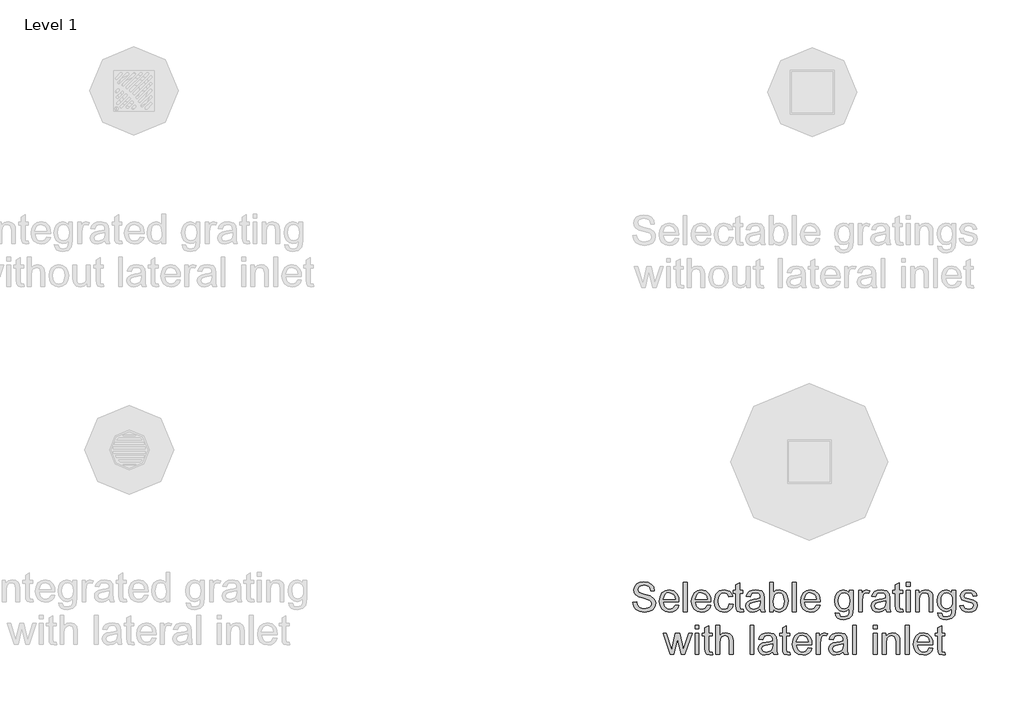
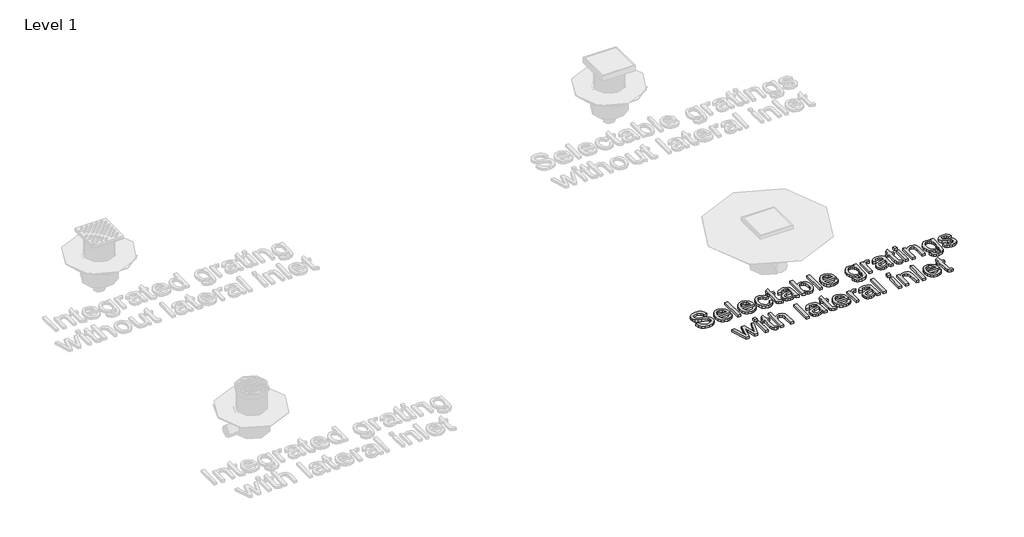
# One storey, part 3 of 4: 1 proxy.
"""IFC4 building model written with IfcOpenShell, lengths in millimetres."""

import ifcopenshell
import ifcopenshell.guid

model = None  # the IFC model being written
_history = None  # IfcOwnerHistory: only IFC2X3 demands one
_inside = {}  # id of a spatial element -> (the spatial element, [elements in it])
_under = {}  # id of a project, library or spatial element -> (it, [spatial elements below it])
_declared = {}  # id of a project -> (the project, [libraries it declares])
_typed = {}  # id of a type object -> (the type object, [elements of that type])
_made_of = {}  # id of a material, layer set ... -> (it, [elements and type objects made of it])


def new_model(schema):
    """Start an empty IFC model of exactly this schema.

    Asked for "IFC4X3", IfcOpenShell would pick the latest addendum, in which some entities
    have other attributes; the version numbers below select the first issue.
    IFC2X3 requires an IfcOwnerHistory on every rooted entity: one is made here for all.
    """
    global model, _history
    if schema == "IFC4X3":
        model = ifcopenshell.file(schema_version=(4, 3, 0, 0))
    else:
        model = ifcopenshell.file(schema=schema)
    _inside.clear()
    _under.clear()
    _declared.clear()
    _typed.clear()
    _made_of.clear()
    _history = None
    if model.schema == "IFC2X3":
        org = make("IfcOrganization", Name="unknown")
        user = make(
            "IfcPersonAndOrganization",
            ThePerson=make("IfcPerson", FamilyName="unknown"),
            TheOrganization=org,
        )
        app = make(
            "IfcApplication",
            ApplicationDeveloper=org,
            Version="unknown",
            ApplicationFullName="unknown",
            ApplicationIdentifier="unknown",
        )
        _history = make(
            "IfcOwnerHistory",
            OwningUser=user,
            OwningApplication=app,
            ChangeAction="ADDED",
            CreationDate=0,
        )
    return model


def make(cls, **values):
    """One entity of the class cls with the attributes given. An attribute that is None is left unset."""
    return model.create_entity(
        cls, **{name: value for name, value in values.items() if value is not None}
    )


def rooted(cls, **values):
    """An entity with a GlobalId (a new one), such as an element, a storey or a relation."""
    return make(cls, GlobalId=ifcopenshell.guid.new(), OwnerHistory=_history, **values)


def si_unit(unit_type, name, prefix=None):
    """IfcSIUnit, for example si_unit("LENGTHUNIT", "METRE", prefix="MILLI")."""
    return make("IfcSIUnit", UnitType=unit_type, Prefix=prefix, Name=name)


def assignment(units):
    """IfcUnitAssignment: the units of a project."""
    return None if units is None else make("IfcUnitAssignment", Units=units)


def point(xyz):
    """IfcCartesianPoint."""
    return None if xyz is None else make("IfcCartesianPoint", Coordinates=xyz)


def direction(xyz):
    """IfcDirection."""
    return None if xyz is None else make("IfcDirection", DirectionRatios=xyz)


def frame(location, z_axis=None, x_axis=None):
    """IfcAxis2Placement3D, a coordinate frame: its origin and axes. An axis left out is left unset."""
    return make(
        "IfcAxis2Placement3D",
        Location=point(location),
        Axis=direction(z_axis),
        RefDirection=direction(x_axis),
    )


def origin():
    """The frame at (0, 0, 0) with its axes left unset."""
    return frame((0.0, 0.0, 0.0))


def origin_with_axes():
    """The frame at (0, 0, 0) with the z axis (0, 0, 1) and the x axis (1, 0, 0) written out."""
    return frame((0.0, 0.0, 0.0), z_axis=(0.0, 0.0, 1.0), x_axis=(1.0, 0.0, 0.0))


def place(relative_to, where):
    """IfcLocalPlacement: puts the frame where relative to a parent placement (None: the world)."""
    return make(
        "IfcLocalPlacement", PlacementRelTo=relative_to, RelativePlacement=where
    )


def context(
    kind, dimensions, precision=None, world=None, true_north=None, identifier=None
):
    """IfcGeometricRepresentationContext, for example the 3D "Model" context."""
    return make(
        "IfcGeometricRepresentationContext",
        ContextIdentifier=identifier,
        ContextType=kind,
        CoordinateSpaceDimension=dimensions,
        Precision=precision,
        WorldCoordinateSystem=world,
        TrueNorth=true_north,
    )


def project(units=None, contexts=None):
    """IfcProject with its units and contexts."""
    return rooted(
        "IfcProject",
        Name="project",
        RepresentationContexts=contexts,
        UnitsInContext=assignment(units),
    )


def spatial(cls, under=None, at=None, **own):
    """A site, building, storey or space (cls), placed at a placement, below another one or the project."""
    s = rooted(cls, ObjectPlacement=at, **own)
    if under is not None:
        _under.setdefault(under.id(), (under, []))[1].append(s)
    return s


def polyline(points):
    """IfcPolyline through the points."""
    return make("IfcPolyline", Points=[point(p) for p in points])


def outline(outer, holes=None, kind="AREA"):
    """IfcArbitraryClosedProfileDef: a profile drawn as a closed curve; with holes, ...WithVoids."""
    if holes is None:
        return make("IfcArbitraryClosedProfileDef", ProfileType=kind, OuterCurve=outer)
    return make(
        "IfcArbitraryProfileDefWithVoids",
        ProfileType=kind,
        OuterCurve=outer,
        InnerCurves=holes,
    )


def extrude(swept, where, along, depth):
    """IfcExtrudedAreaSolid: the profile swept, set in the frame where, extruded along a direction by depth."""
    return make(
        "IfcExtrudedAreaSolid",
        SweptArea=swept,
        Position=where,
        ExtrudedDirection=direction(along),
        Depth=depth,
    )


def shape(context_of_items, identifier, shape_type, items):
    """IfcShapeRepresentation: the items that make up one representation, for example the "Body"."""
    return make(
        "IfcShapeRepresentation",
        ContextOfItems=context_of_items,
        RepresentationIdentifier=identifier,
        RepresentationType=shape_type,
        Items=items,
    )


def made_of(thing, what):
    """Note that an element or type object is made of a material, layer set ...; save() writes the relation."""
    if what is not None:
        _made_of.setdefault(what.id(), (what, []))[1].append(thing)
    return thing


def element(
    cls,
    number,
    at=None,
    inside=None,
    cuts=None,
    type_object=None,
    material=None,
    context=None,
    identifier="Body",
    shape_type=None,
    held_by="IfcProductDefinitionShape",
    body=None,
    shapes=None,
    **own,
):
    """One element of the class cls, such as IfcWall. Its Tag is "e" and its number.

    at: its placement. inside: the storey or other place that contains it. cuts: it is an
    opening in that element (IfcRelVoidsElement). A single representation is given by context,
    identifier, shape_type and body (its items); several are given by shapes. held_by: the class
    of the entity that holds the representations. save() writes the other relations.
    """
    e = rooted(cls, Tag="e%d" % number, ObjectPlacement=at, **own)
    if body is not None:
        shapes = [shape(context, identifier, shape_type, body)]
    if shapes is not None:
        e.Representation = make(held_by, Representations=shapes)
    if inside is not None:
        _inside.setdefault(inside.id(), (inside, []))[1].append(e)
    if cuts is not None:
        rooted(
            "IfcRelVoidsElement", RelatingBuildingElement=cuts, RelatedOpeningElement=e
        )
    if type_object is not None:
        _typed.setdefault(type_object.id(), (type_object, []))[1].append(e)
    return made_of(e, material)


def aggregate(whole, parts):
    """IfcRelAggregates: a whole, such as a stair, and the parts it consists of."""
    return rooted("IfcRelAggregates", RelatingObject=whole, RelatedObjects=parts)


def save(model, path):
    """Write the relations noted so far, then the file.

    IfcRelAggregates (storeys below a building ...), IfcRelContainedInSpatialStructure (elements
    in a storey), IfcRelDefinesByType, IfcRelAssociatesMaterial and IfcRelDeclares: one each for
    every whole, place, type object, material and project.
    """
    for whole, parts in _under.values():
        aggregate(whole, parts)
    for where, things in _inside.values():
        rooted(
            "IfcRelContainedInSpatialStructure",
            RelatedElements=things,
            RelatingStructure=where,
        )
    for kind, things in _typed.values():
        rooted("IfcRelDefinesByType", RelatedObjects=things, RelatingType=kind)
    for what, things in _made_of.values():
        rooted("IfcRelAssociatesMaterial", RelatedObjects=things, RelatingMaterial=what)
    for by, libraries in _declared.values():
        rooted("IfcRelDeclares", RelatingContext=by, RelatedDefinitions=libraries)
    model.write(path)


model = new_model("IFC4")

# Units and contexts
model_context = context("Model", 3, world=origin())
ifc_project = project(units=[si_unit("LENGTHUNIT", "METRE", prefix="MILLI")], contexts=[model_context])

# Site, building, storey
site = spatial("IfcSite", under=ifc_project)
building = spatial("IfcBuilding", under=site)
storey = spatial("IfcBuildingStorey", under=building, Name="Level 1", Elevation=0.0)

# Proxy
placement = place(None, origin())
element("IfcBuildingElementProxy", 1, Name="100mm ACO", ObjectType="100mm ACO", at=placement, inside=storey, context=model_context, shape_type="SweptSolid", body=[
    extrude(outline(polyline([(3996.6750123, -2075.7689596), (3994.6640169, -2066.875007), (3990.1935308, -2060.5056494), (3973.8740864, -2055.3985892), (3958.2490864, -2059.3771771), (3953.7351975, -2064.2636065), (3952.2305679, -2070.9657188), (3956.701054, -2081.0206957), (3974.8868179, -2087.3140984), (3994.7218873, -2092.797316), (4007.872929, -2101.7238207), (4011.9744915, -2108.8057072), (4013.341679, -2117.9564596), (4010.8351686, -2129.7945672), (4003.3156373, -2139.4408346), (3991.7668815, -2145.853595), (3977.1726975, -2147.9911818), (3959.1894799, -2145.6184966), (3946.3856605, -2138.500441), (3938.5731605, -2127.6063438), (3935.5639012, -2113.9055336), (3948.5268642, -2112.8059966), (3951.1563491, -2123.6820093), (3957.3665632, -2131.1364364), (3966.2026454, -2135.4441621), (3976.7097345, -2136.8800707), (3993.8393642, -2132.1491679), (3998.7438781, -2126.5755278), (4000.378716, -2119.3164133), (3998.6896246, -2111.9885776), (3993.6223503, -2106.9610892), (3970.3439938, -2099.510279), (3956.133201, -2095.1700012), (3946.544804, -2089.2961586), (3941.0869047, -2081.6681204), (3939.2676049, -2072.0652559), (3941.5498676, -2061.0698855), (3948.3966558, -2052.1578484), (3959.1786292, -2046.2550707), (3973.2664475, -2044.2874781), (3987.8280794, -2046.2695383), (3999.2213086, -2052.2157188), (4006.7299892, -2061.8077327), (4009.6379753, -2074.7272929), (3996.6750123, -2075.7689596)])), origin_with_axes(), (0.0, 0.0, 1.0), 10.0),
    extrude(outline(polyline([(4092.9713086, -2112.8059966), (4039.2676049, -2112.8059966), (4041.3400875, -2123.9315753), (4046.0529058, -2132.0768299), (4052.8345899, -2137.0681494), (4061.1136697, -2138.7319225), (4072.7890169, -2135.0426864), (4080.0083456, -2123.9171077), (4092.9713086, -2125.4217373), (4088.5948619, -2135.0426864), (4081.6576512, -2142.1462744), (4072.4128595, -2146.5299549), (4061.1136697, -2147.9911818), (4046.5267195, -2145.4846714), (4035.5204984, -2137.9651401), (4028.6086061, -2126.1053311), (4026.3046419, -2110.5779873), (4028.5254174, -2095.0397929), (4035.1877438, -2082.7423392), (4045.8865285, -2074.7345267), (4060.216679, -2072.0652559), (4075.4365864, -2075.5230105), (4087.8642484, -2087.2996309), (4091.6945436, -2097.8356552), (4092.9713086, -2112.8059966)]), holes=[polyline([(4080.0083456, -2103.5467373), (4077.9250123, -2093.3904873), (4073.1796419, -2086.5328484), (4059.8983919, -2081.3245151), (4052.0424892, -2082.8725475), (4045.7201512, -2087.5166447), (4039.2676049, -2103.5467373), (4080.0083456, -2103.5467373)])]), origin_with_axes(), (0.0, 0.0, 1.0), 10.0),
    extrude(outline(polyline([(4120.7490864, -2146.1393299), (4107.7861234, -2146.1393299), (4107.7861234, -2046.1393299), (4120.7490864, -2046.1393299), (4120.7490864, -2146.1393299)])), origin_with_axes(), (0.0, 0.0, 1.0), 10.0),
    extrude(outline(polyline([(4202.2305679, -2112.8059966), (4148.5268642, -2112.8059966), (4150.5993468, -2123.9315753), (4155.3121651, -2132.0768299), (4162.0938491, -2137.0681494), (4170.372929, -2138.7319225), (4182.0482762, -2135.0426864), (4189.2676049, -2123.9171077), (4202.2305679, -2125.4217373), (4197.8541211, -2135.0426864), (4190.9169105, -2142.1462744), (4181.6721188, -2146.5299549), (4170.372929, -2147.9911818), (4155.7859788, -2145.4846714), (4144.7797577, -2137.9651401), (4137.8678653, -2126.1053311), (4135.5639012, -2110.5779873), (4137.7846767, -2095.0397929), (4144.4470031, -2082.7423392), (4155.1457878, -2074.7345267), (4169.4759382, -2072.0652559), (4184.6958456, -2075.5230105), (4197.1235077, -2087.2996309), (4200.9538028, -2097.8356552), (4202.2305679, -2112.8059966)]), holes=[polyline([(4189.2676049, -2103.5467373), (4187.1842716, -2093.3904873), (4182.4389012, -2086.5328484), (4169.1576512, -2081.3245151), (4161.3017484, -2082.8725475), (4154.9794105, -2087.5166447), (4148.5268642, -2103.5467373), (4189.2676049, -2103.5467373)])]), origin_with_axes(), (0.0, 0.0, 1.0), 10.0),
    extrude(outline(polyline([(4278.1564938, -2121.6890984), (4274.1272693, -2133.494654), (4266.9585771, -2141.6543762), (4257.6342137, -2146.4069804), (4247.1379753, -2147.9911818), (4232.8222924, -2145.4014827), (4222.1669105, -2137.6323855), (4215.5479869, -2125.5881146), (4213.341679, -2110.1728947), (4218.3764012, -2087.4877096), (4230.9776744, -2075.5230105), (4246.8775586, -2072.0652559), (4266.3364706, -2077.7220846), (4272.8722056, -2084.7063149), (4276.3046419, -2094.3453484), (4263.341679, -2096.1393299), (4257.4389012, -2085.0426864), (4247.0222345, -2081.3245151), (4238.0667947, -2083.208919), (4231.5708456, -2088.8621309), (4227.6211929, -2097.8935255), (4226.3046419, -2109.9124781), (4227.6248098, -2122.1412107), (4231.5853132, -2131.223242), (4238.0342426, -2136.8547524), (4246.8196882, -2138.7319225), (4259.4209614, -2134.1022929), (4265.1935308, -2120.213404), (4278.1564938, -2121.6890984)])), origin_with_axes(), (0.0, 0.0, 1.0), 10.0),
    extrude(outline(polyline([(4313.341679, -2147.1520614), (4304.2560308, -2147.9911818), (4292.6674892, -2145.1121309), (4288.2259382, -2137.8059966), (4287.4157531, -2125.4796077), (4287.4157531, -2083.176367), (4278.1564938, -2083.176367), (4278.1564938, -2073.9171077), (4287.4157531, -2073.9171077), (4287.4157531, -2055.5722003), (4300.378716, -2047.9911818), (4300.378716, -2073.9171077), (4311.4898271, -2073.9171077), (4311.4898271, -2083.176367), (4300.378716, -2083.176367), (4300.378716, -2128.0837744), (4301.4203827, -2136.301367), (4306.7155216, -2138.7319225), (4311.7502438, -2138.7319225), (4313.341679, -2147.1520614)])), origin_with_axes(), (0.0, 0.0, 1.0), 10.0),
    extrude(outline(polyline([(4387.4157531, -2146.1393299), (4374.4527901, -2146.1393299), (4370.7490864, -2137.400904), (4358.2563202, -2145.3436123), (4344.7942253, -2147.9911818), (4334.8079695, -2146.5444225), (4327.1871651, -2142.2041447), (4322.3586061, -2135.4911818), (4320.7490864, -2126.926367), (4322.326054, -2118.6183519), (4327.0569568, -2111.9234734), (4335.6868757, -2107.0298103), (4348.9608919, -2104.125441), (4360.3034845, -2102.3893299), (4370.7490864, -2099.8430336), (4370.4163318, -2091.8135197), (4368.4776744, -2086.937941), (4363.3127438, -2082.8725475), (4353.7351975, -2081.3245151), (4341.6547577, -2084.4639827), (4335.5639012, -2096.1393299), (4322.6009382, -2094.5478947), (4326.1563491, -2084.738867), (4332.8295262, -2077.707617), (4342.6132357, -2073.4758461), (4355.5002438, -2072.0652559), (4374.7566095, -2075.9281031), (4382.3086929, -2085.2452327), (4383.7120494, -2099.2932651), (4383.7120494, -2115.8152559), (4384.2618179, -2136.0698855), (4387.4157531, -2146.1393299)]), holes=[polyline([(4370.7490864, -2113.7319225), (4370.7490864, -2109.1022929), (4347.4707299, -2114.426367), (4337.1517195, -2118.4845267), (4333.7120494, -2126.7238207), (4337.4157531, -2135.3465059), (4348.0928364, -2138.7319225), (4363.9059151, -2133.0606262), (4369.0382936, -2125.3928021), (4370.7490864, -2113.7319225)])]), origin_with_axes(), (0.0, 0.0, 1.0), 10.0),
    extrude(outline(polyline([(4415.3671419, -2081.0640984), (4423.7294105, -2074.3149665), (4434.8115864, -2072.0652559), (4447.2356315, -2074.6115521), (4456.9036003, -2082.250441), (4463.1210482, -2093.9981262), (4465.1935308, -2108.8708114), (4462.914885, -2125.6061991), (4456.0789475, -2137.9072697), (4446.190348, -2145.4702038), (4434.753716, -2147.9911818), (4423.7366443, -2145.5172234), (4415.4539475, -2138.0953484), (4415.1935308, -2146.1393299), (4402.2305679, -2146.1393299), (4402.2305679, -2046.1393299), (4415.1935308, -2046.1393299), (4415.3671419, -2081.0640984)]), holes=[polyline([(4433.5384382, -2138.7319225), (4440.9566963, -2136.8402848), (4446.9498966, -2131.1653716), (4450.9104, -2122.0688728), (4452.2305679, -2109.9124781), (4447.3694568, -2089.035742), (4441.5824197, -2083.2523218), (4433.9435308, -2081.3245151), (4426.3191095, -2083.3138091), (4420.3439938, -2089.281691), (4415.1935308, -2109.4205799), (4417.3347345, -2126.3765984), (4423.7872808, -2135.0716216), (4433.5384382, -2138.7319225)])]), origin_with_axes(), (0.0, 0.0, 1.0), 10.0),
    extrude(outline(polyline([(4492.9713086, -2146.1393299), (4480.0083456, -2146.1393299), (4480.0083456, -2046.1393299), (4492.9713086, -2046.1393299), (4492.9713086, -2146.1393299)])), origin_with_axes(), (0.0, 0.0, 1.0), 10.0),
    extrude(outline(polyline([(4574.4527901, -2112.8059966), (4520.7490864, -2112.8059966), (4522.821569, -2123.9315753), (4527.5343873, -2132.0768299), (4534.3160713, -2137.0681494), (4542.5951512, -2138.7319225), (4554.2704984, -2135.0426864), (4561.4898271, -2123.9171077), (4574.4527901, -2125.4217373), (4570.0763433, -2135.0426864), (4563.1391327, -2142.1462744), (4553.894341, -2146.5299549), (4542.5951512, -2147.9911818), (4528.008201, -2145.4846714), (4517.0019799, -2137.9651401), (4510.0900875, -2126.1053311), (4507.7861234, -2110.5779873), (4510.0068989, -2095.0397929), (4516.6692253, -2082.7423392), (4527.36801, -2074.7345267), (4541.6981605, -2072.0652559), (4556.9180679, -2075.5230105), (4569.3457299, -2087.2996309), (4573.176025, -2097.8356552), (4574.4527901, -2112.8059966)]), holes=[polyline([(4561.4898271, -2103.5467373), (4559.4064938, -2093.3904873), (4554.6611234, -2086.5328484), (4541.3798734, -2081.3245151), (4533.5239706, -2082.8725475), (4527.2016327, -2087.5166447), (4520.7490864, -2103.5467373), (4561.4898271, -2103.5467373)])]), origin_with_axes(), (0.0, 0.0, 1.0), 10.0),
    extrude(outline(polyline([(4687.4157531, -2135.4911818), (4684.363091, -2158.1329642), (4673.497929, -2169.7649086), (4654.8347345, -2173.9171077), (4643.6187334, -2172.5101343), (4634.4498966, -2168.2892142), (4628.3409556, -2160.8637223), (4626.3046419, -2149.8430336), (4639.2676049, -2151.8974318), (4643.8393642, -2161.4605105), (4655.0372808, -2164.6578484), (4668.347466, -2160.9686123), (4673.5123966, -2151.9842373), (4674.4527901, -2137.3719688), (4665.6781952, -2143.9474896), (4654.8636697, -2146.1393299), (4642.4721767, -2143.5279295), (4632.7861234, -2135.6937281), (4626.5361234, -2123.8809387), (4624.4527901, -2109.3337744), (4626.4348503, -2094.6925707), (4632.3810308, -2082.713404), (4641.8283688, -2074.7272929), (4654.3139012, -2072.0652559), (4665.3888433, -2074.4451748), (4674.1923734, -2081.5849318), (4674.4527901, -2073.9171077), (4687.4157531, -2073.9171077), (4687.4157531, -2135.4911818)]), holes=[polyline([(4656.8023271, -2136.8800707), (4664.014422, -2135.2741679), (4670.372929, -2130.4564596), (4674.8217137, -2121.8627096), (4676.3046419, -2108.9286818), (4674.8904348, -2097.1412107), (4670.6478132, -2088.4570383), (4664.3218584, -2083.1076459), (4656.6576512, -2081.3245151), (4648.9355737, -2083.1510487), (4642.7832299, -2088.6306494), (4638.7576223, -2097.2858866), (4637.4157531, -2108.6393299), (4638.8227264, -2121.3563438), (4643.0436466, -2130.1092373), (4649.2972635, -2135.1873623), (4656.8023271, -2136.8800707)])]), origin_with_axes(), (0.0, 0.0, 1.0), 10.0),
    extrude(outline(polyline([(4744.8231605, -2074.900904), (4740.7722345, -2083.176367), (4732.2652901, -2081.3245151), (4726.4710193, -2082.9521193), (4722.2826512, -2087.8349318), (4718.8972345, -2106.0640984), (4718.8972345, -2146.1393299), (4705.9342716, -2146.1393299), (4705.9342716, -2073.9171077), (4717.0453827, -2073.9171077), (4717.0453827, -2084.6231262), (4723.9753595, -2075.2047234), (4732.409966, -2072.0652559), (4744.8231605, -2074.900904)])), origin_with_axes(), (0.0, 0.0, 1.0), 10.0),
    extrude(outline(polyline([(4815.1935308, -2146.1393299), (4802.2305679, -2146.1393299), (4798.5268642, -2137.400904), (4786.034098, -2145.3436123), (4772.5720031, -2147.9911818), (4762.5857473, -2146.5444225), (4754.9649429, -2142.2041447), (4750.1363838, -2135.4911818), (4748.5268642, -2126.926367), (4750.1038318, -2118.6183519), (4754.8347345, -2111.9234734), (4763.4646535, -2107.0298103), (4776.7386697, -2104.125441), (4788.0812623, -2102.3893299), (4798.5268642, -2099.8430336), (4798.1941095, -2091.8135197), (4796.2554521, -2086.937941), (4791.0905216, -2082.8725475), (4781.5129753, -2081.3245151), (4769.4325355, -2084.4639827), (4763.341679, -2096.1393299), (4750.378716, -2094.5478947), (4753.9341269, -2084.738867), (4760.607304, -2077.707617), (4770.3910135, -2073.4758461), (4783.2780216, -2072.0652559), (4802.5343873, -2075.9281031), (4810.0864706, -2085.2452327), (4811.4898271, -2099.2932651), (4811.4898271, -2115.8152559), (4812.0395956, -2136.0698855), (4815.1935308, -2146.1393299)]), holes=[polyline([(4798.5268642, -2113.7319225), (4798.5268642, -2109.1022929), (4775.2485077, -2114.426367), (4764.9294973, -2118.4845267), (4761.4898271, -2126.7238207), (4765.1935308, -2135.3465059), (4775.8706142, -2138.7319225), (4791.6836929, -2133.0606262), (4796.8160713, -2125.3928021), (4798.5268642, -2113.7319225)])]), origin_with_axes(), (0.0, 0.0, 1.0), 10.0),
    extrude(outline(polyline([(4857.7861234, -2147.1520614), (4848.7004753, -2147.9911818), (4837.1119336, -2145.1121309), (4832.6703827, -2137.8059966), (4831.8601975, -2125.4796077), (4831.8601975, -2083.176367), (4822.6009382, -2083.176367), (4822.6009382, -2073.9171077), (4831.8601975, -2073.9171077), (4831.8601975, -2055.5722003), (4844.8231605, -2047.9911818), (4844.8231605, -2073.9171077), (4855.9342716, -2073.9171077), (4855.9342716, -2083.176367), (4844.8231605, -2083.176367), (4844.8231605, -2128.0837744), (4845.8648271, -2136.301367), (4851.159966, -2138.7319225), (4856.1946882, -2138.7319225), (4857.7861234, -2147.1520614)])), origin_with_axes(), (0.0, 0.0, 1.0), 10.0),
    extrude(outline(polyline([(4881.8601975, -2059.1022929), (4868.8972345, -2059.1022929), (4868.8972345, -2046.1393299), (4881.8601975, -2046.1393299), (4881.8601975, -2059.1022929)])), origin_with_axes(), (0.0, 0.0, 1.0), 10.0),
    extrude(outline(polyline([(4881.8601975, -2146.1393299), (4868.8972345, -2146.1393299), (4868.8972345, -2073.9171077), (4881.8601975, -2073.9171077), (4881.8601975, -2146.1393299)])), origin_with_axes(), (0.0, 0.0, 1.0), 10.0),
    extrude(outline(polyline([(4959.6379753, -2146.1393299), (4946.6750123, -2146.1393299), (4946.6750123, -2101.1740521), (4942.8121651, -2085.5779873), (4932.0627438, -2081.3245151), (4922.0367021, -2084.0444225), (4915.3237392, -2091.7122466), (4913.341679, -2105.7168762), (4913.341679, -2146.1393299), (4900.378716, -2146.1393299), (4900.378716, -2073.9171077), (4911.4898271, -2073.9171077), (4911.4898271, -2083.957617), (4921.3856605, -2075.0311123), (4934.6379753, -2072.0652559), (4946.0095031, -2074.119654), (4954.8057994, -2080.2683809), (4958.8133225, -2089.0068068), (4959.6379753, -2101.5502096), (4959.6379753, -2146.1393299)])), origin_with_axes(), (0.0, 0.0, 1.0), 10.0),
    extrude(outline(polyline([(5037.4157531, -2135.4911818), (5034.363091, -2158.1329642), (5023.497929, -2169.7649086), (5004.8347345, -2173.9171077), (4993.6187334, -2172.5101343), (4984.4498966, -2168.2892142), (4978.3409556, -2160.8637223), (4976.3046419, -2149.8430336), (4989.2676049, -2151.8974318), (4993.8393642, -2161.4605105), (5005.0372808, -2164.6578484), (5018.347466, -2160.9686123), (5023.5123966, -2151.9842373), (5024.4527901, -2137.3719688), (5015.6781952, -2143.9474896), (5004.8636697, -2146.1393299), (4992.4721767, -2143.5279295), (4982.7861234, -2135.6937281), (4976.5361234, -2123.8809387), (4974.4527901, -2109.3337744), (4976.4348503, -2094.6925707), (4982.3810308, -2082.713404), (4991.8283688, -2074.7272929), (5004.3139012, -2072.0652559), (5015.3888433, -2074.4451748), (5024.1923734, -2081.5849318), (5024.4527901, -2073.9171077), (5037.4157531, -2073.9171077), (5037.4157531, -2135.4911818)]), holes=[polyline([(5006.8023271, -2136.8800707), (5014.014422, -2135.2741679), (5020.372929, -2130.4564596), (5024.8217137, -2121.8627096), (5026.3046419, -2108.9286818), (5024.8904348, -2097.1412107), (5020.6478132, -2088.4570383), (5014.3218584, -2083.1076459), (5006.6576512, -2081.3245151), (4998.9355737, -2083.1510487), (4992.7832299, -2088.6306494), (4988.7576223, -2097.2858866), (4987.4157531, -2108.6393299), (4988.8227264, -2121.3563438), (4993.0436466, -2130.1092373), (4999.2972635, -2135.1873623), (5006.8023271, -2136.8800707)])]), origin_with_axes(), (0.0, 0.0, 1.0), 10.0),
    extrude(outline(polyline([(5096.6750123, -2094.2874781), (5091.8862392, -2084.5652559), (5080.8185308, -2081.3245151), (5069.5048734, -2084.1022929), (5065.1935308, -2092.1752096), (5068.0436466, -2099.3222003), (5081.4840401, -2103.1995151), (5099.206841, -2107.3661818), (5108.2490864, -2113.6885197), (5111.4898271, -2125.0166447), (5109.4788318, -2133.9467663), (5103.4458456, -2141.3505568), (5094.0491443, -2146.3310255), (5081.9470031, -2147.9911818), (5069.4723213, -2146.5950591), (5060.0575355, -2142.406691), (5053.6954116, -2135.4333114), (5050.378716, -2125.682154), (5063.341679, -2123.9171077), (5068.9406373, -2135.0426864), (5081.9470031, -2138.7319225), (5094.2444568, -2134.8980105), (5098.5268642, -2125.5664133), (5096.6026744, -2119.5912975), (5091.7994336, -2116.2203484), (5078.2143642, -2113.3268299), (5057.2797577, -2105.5143299), (5052.2305679, -2092.9275244), (5054.1005042, -2084.6412107), (5059.7103132, -2077.953566), (5068.4812913, -2073.5373334), (5079.8347345, -2072.0652559), (5091.7668815, -2073.3528716), (5100.7114706, -2077.2157188), (5106.6685019, -2083.6465637), (5109.6379753, -2092.6381725), (5096.6750123, -2094.2874781)])), origin_with_axes(), (0.0, 0.0, 1.0), 10.0),
    extrude(outline(polyline([(4137.878716, -2220.213404), (4113.659966, -2292.4356262), (4101.3914475, -2292.4356262), (4090.8879753, -2249.0328484), (4089.5858919, -2243.1734734), (4088.341679, -2236.7643299), (4075.5812623, -2292.4356262), (4063.341679, -2292.4356262), (4038.8046419, -2220.213404), (4050.3497808, -2220.213404), (4067.9713086, -2277.4472003), (4070.0835771, -2267.6960429), (4081.1078827, -2220.213404), (4095.691216, -2220.213404), (4104.4296419, -2258.0895614), (4108.4805679, -2275.8847003), (4126.3335771, -2220.213404), (4137.878716, -2220.213404)])), origin_with_axes(), (0.0, 0.0, 1.0), 10.0),
    extrude(outline(polyline([(4161.4898271, -2205.3985892), (4148.5268642, -2205.3985892), (4148.5268642, -2192.4356262), (4161.4898271, -2192.4356262), (4161.4898271, -2205.3985892)])), origin_with_axes(), (0.0, 0.0, 1.0), 10.0),
    extrude(outline(polyline([(4161.4898271, -2292.4356262), (4148.5268642, -2292.4356262), (4148.5268642, -2220.213404), (4161.4898271, -2220.213404), (4161.4898271, -2292.4356262)])), origin_with_axes(), (0.0, 0.0, 1.0), 10.0),
    extrude(outline(polyline([(4207.7861234, -2293.4483577), (4198.7004753, -2294.2874781), (4187.1119336, -2291.4084271), (4182.6703827, -2284.1022929), (4181.8601975, -2271.775904), (4181.8601975, -2229.4726633), (4172.6009382, -2229.4726633), (4172.6009382, -2220.213404), (4181.8601975, -2220.213404), (4181.8601975, -2201.8684966), (4194.8231605, -2194.2874781), (4194.8231605, -2220.213404), (4205.9342716, -2220.213404), (4205.9342716, -2229.4726633), (4194.8231605, -2229.4726633), (4194.8231605, -2274.3800707), (4195.8648271, -2282.5976633), (4201.159966, -2285.0282188), (4206.1946882, -2285.0282188), (4207.7861234, -2293.4483577)])), origin_with_axes(), (0.0, 0.0, 1.0), 10.0),
    extrude(outline(polyline([(4278.1564938, -2292.4356262), (4265.1935308, -2292.4356262), (4265.1935308, -2245.7342373), (4261.5042947, -2232.1491679), (4250.4944568, -2227.6208114), (4237.560429, -2232.9593531), (4233.2852554, -2240.3920788), (4231.8601975, -2252.0131725), (4231.8601975, -2292.4356262), (4218.8972345, -2292.4356262), (4218.8972345, -2192.4356262), (4231.8601975, -2192.4356262), (4231.8601975, -2228.2573855), (4241.5607183, -2220.8355105), (4253.4169105, -2218.3615521), (4266.6981605, -2221.2261355), (4275.5957299, -2230.0368994), (4278.1564938, -2246.5444225), (4278.1564938, -2292.4356262)])), origin_with_axes(), (0.0, 0.0, 1.0), 10.0),
    extrude(outline(polyline([(4348.5268642, -2292.4356262), (4335.5639012, -2292.4356262), (4335.5639012, -2192.4356262), (4348.5268642, -2192.4356262), (4348.5268642, -2292.4356262)])), origin_with_axes(), (0.0, 0.0, 1.0), 10.0),
    extrude(outline(polyline([(4430.0083456, -2292.4356262), (4417.0453827, -2292.4356262), (4413.341679, -2283.6972003), (4400.8489128, -2291.6399086), (4387.3868179, -2294.2874781), (4377.4005621, -2292.8407188), (4369.7797577, -2288.500441), (4364.9511987, -2281.7874781), (4363.341679, -2273.2226633), (4364.9186466, -2264.9146482), (4369.6495494, -2258.2197697), (4378.2794683, -2253.3261065), (4391.5534845, -2250.4217373), (4402.8960771, -2248.6856262), (4413.341679, -2246.1393299), (4413.0089244, -2238.109816), (4411.0702669, -2233.2342373), (4405.9053364, -2229.1688438), (4396.3277901, -2227.6208114), (4384.2473503, -2230.760279), (4378.1564938, -2242.4356262), (4365.1935308, -2240.844191), (4368.7489417, -2231.0351633), (4375.4221188, -2224.0039133), (4385.2058283, -2219.7721424), (4398.0928364, -2218.3615521), (4417.3492021, -2222.2243994), (4424.9012855, -2231.541529), (4426.3046419, -2245.5895614), (4426.3046419, -2262.1115521), (4426.8544105, -2282.3661818), (4430.0083456, -2292.4356262)]), holes=[polyline([(4413.341679, -2260.0282188), (4413.341679, -2255.3985892), (4390.0633225, -2260.7226633), (4379.7443121, -2264.780823), (4376.3046419, -2273.020117), (4380.0083456, -2281.6428021), (4390.685429, -2285.0282188), (4406.4985077, -2279.3569225), (4411.6308862, -2271.6890984), (4413.341679, -2260.0282188)])]), origin_with_axes(), (0.0, 0.0, 1.0), 10.0),
    extrude(outline(polyline([(4472.6009382, -2293.4483577), (4463.5152901, -2294.2874781), (4451.9267484, -2291.4084271), (4447.4851975, -2284.1022929), (4446.6750123, -2271.775904), (4446.6750123, -2229.4726633), (4437.4157531, -2229.4726633), (4437.4157531, -2220.213404), (4446.6750123, -2220.213404), (4446.6750123, -2201.8684966), (4459.6379753, -2194.2874781), (4459.6379753, -2220.213404), (4470.7490864, -2220.213404), (4470.7490864, -2229.4726633), (4459.6379753, -2229.4726633), (4459.6379753, -2274.3800707), (4460.6796419, -2282.5976633), (4465.9747808, -2285.0282188), (4471.0095031, -2285.0282188), (4472.6009382, -2293.4483577)])), origin_with_axes(), (0.0, 0.0, 1.0), 10.0),
    extrude(outline(polyline([(4546.6750123, -2259.1022929), (4492.9713086, -2259.1022929), (4495.0437913, -2270.2278716), (4499.7566095, -2278.3731262), (4506.5382936, -2283.3644457), (4514.8173734, -2285.0282188), (4526.4927206, -2281.3389827), (4533.7120494, -2270.213404), (4546.6750123, -2271.7180336), (4542.2985656, -2281.3389827), (4535.3613549, -2288.4425707), (4526.1165632, -2292.8262512), (4514.8173734, -2294.2874781), (4500.2304232, -2291.7809677), (4489.2242021, -2284.2614364), (4482.3123098, -2272.4016274), (4480.0083456, -2256.8742836), (4482.2291211, -2241.3360892), (4488.8914475, -2229.0386355), (4499.5902322, -2221.030823), (4513.9203827, -2218.3615521), (4529.1402901, -2221.8193068), (4541.5679521, -2233.5959271), (4545.3982473, -2244.1319515), (4546.6750123, -2259.1022929)]), holes=[polyline([(4533.7120494, -2249.8430336), (4531.628716, -2239.6867836), (4526.8833456, -2232.8291447), (4513.6020956, -2227.6208114), (4505.7461929, -2229.1688438), (4499.4238549, -2233.812941), (4492.9713086, -2249.8430336), (4533.7120494, -2249.8430336)])]), origin_with_axes(), (0.0, 0.0, 1.0), 10.0),
    extrude(outline(polyline([(4600.378716, -2221.1972003), (4596.3277901, -2229.4726633), (4587.8208456, -2227.6208114), (4582.0265748, -2229.2484156), (4577.8382068, -2234.1312281), (4574.4527901, -2252.3603947), (4574.4527901, -2292.4356262), (4561.4898271, -2292.4356262), (4561.4898271, -2220.213404), (4572.6009382, -2220.213404), (4572.6009382, -2230.9194225), (4579.5309151, -2221.5010197), (4587.9655216, -2218.3615521), (4600.378716, -2221.1972003)])), origin_with_axes(), (0.0, 0.0, 1.0), 10.0),
    extrude(outline(polyline([(4670.7490864, -2292.4356262), (4657.7861234, -2292.4356262), (4654.0824197, -2283.6972003), (4641.5896535, -2291.6399086), (4628.1275586, -2294.2874781), (4618.1413028, -2292.8407188), (4610.5204984, -2288.500441), (4605.6919394, -2281.7874781), (4604.0824197, -2273.2226633), (4605.6593873, -2264.9146482), (4610.3902901, -2258.2197697), (4619.0202091, -2253.3261065), (4632.2942253, -2250.4217373), (4643.6368179, -2248.6856262), (4654.0824197, -2246.1393299), (4653.7496651, -2238.109816), (4651.8110077, -2233.2342373), (4646.6460771, -2229.1688438), (4637.0685308, -2227.6208114), (4624.988091, -2230.760279), (4618.8972345, -2242.4356262), (4605.9342716, -2240.844191), (4609.4896825, -2231.0351633), (4616.1628595, -2224.0039133), (4625.946569, -2219.7721424), (4638.8335771, -2218.3615521), (4658.0899429, -2222.2243994), (4665.6420262, -2231.541529), (4667.0453827, -2245.5895614), (4667.0453827, -2262.1115521), (4667.5951512, -2282.3661818), (4670.7490864, -2292.4356262)]), holes=[polyline([(4654.0824197, -2260.0282188), (4654.0824197, -2255.3985892), (4630.8040632, -2260.7226633), (4620.4850528, -2264.780823), (4617.0453827, -2273.020117), (4620.7490864, -2281.6428021), (4631.4261697, -2285.0282188), (4647.2392484, -2279.3569225), (4652.3716269, -2271.6890984), (4654.0824197, -2260.0282188)])]), origin_with_axes(), (0.0, 0.0, 1.0), 10.0),
    extrude(outline(polyline([(4698.5268642, -2292.4356262), (4685.5639012, -2292.4356262), (4685.5639012, -2192.4356262), (4698.5268642, -2192.4356262), (4698.5268642, -2292.4356262)])), origin_with_axes(), (0.0, 0.0, 1.0), 10.0),
    extrude(outline(polyline([(4768.8972345, -2292.4356262), (4755.9342716, -2292.4356262), (4755.9342716, -2220.213404), (4768.8972345, -2220.213404), (4768.8972345, -2292.4356262)])), origin_with_axes(), (0.0, 0.0, 1.0), 10.0),
    extrude(outline(polyline([(4768.8972345, -2205.3985892), (4755.9342716, -2205.3985892), (4755.9342716, -2192.4356262), (4768.8972345, -2192.4356262), (4768.8972345, -2205.3985892)])), origin_with_axes(), (0.0, 0.0, 1.0), 10.0),
    extrude(outline(polyline([(4846.6750123, -2292.4356262), (4833.7120494, -2292.4356262), (4833.7120494, -2247.4703484), (4829.8492021, -2231.8742836), (4819.0997808, -2227.6208114), (4809.0737392, -2230.3407188), (4802.3607762, -2238.0085429), (4800.378716, -2252.0131725), (4800.378716, -2292.4356262), (4787.4157531, -2292.4356262), (4787.4157531, -2220.213404), (4798.5268642, -2220.213404), (4798.5268642, -2230.2539133), (4808.4226975, -2221.3274086), (4821.6750123, -2218.3615521), (4833.0465401, -2220.4159503), (4841.8428364, -2226.5646771), (4845.8503595, -2235.3031031), (4846.6750123, -2247.8465059), (4846.6750123, -2292.4356262)])), origin_with_axes(), (0.0, 0.0, 1.0), 10.0),
    extrude(outline(polyline([(4878.1564938, -2292.4356262), (4865.1935308, -2292.4356262), (4865.1935308, -2192.4356262), (4878.1564938, -2192.4356262), (4878.1564938, -2292.4356262)])), origin_with_axes(), (0.0, 0.0, 1.0), 10.0),
    extrude(outline(polyline([(4959.6379753, -2259.1022929), (4905.9342716, -2259.1022929), (4908.0067542, -2270.2278716), (4912.7195725, -2278.3731262), (4919.5012565, -2283.3644457), (4927.7803364, -2285.0282188), (4939.4556836, -2281.3389827), (4946.6750123, -2270.213404), (4959.6379753, -2271.7180336), (4955.2615285, -2281.3389827), (4948.3243179, -2288.4425707), (4939.0795262, -2292.8262512), (4927.7803364, -2294.2874781), (4913.1933862, -2291.7809677), (4902.1871651, -2284.2614364), (4895.2752727, -2272.4016274), (4892.9713086, -2256.8742836), (4895.1920841, -2241.3360892), (4901.8544105, -2229.0386355), (4912.5531952, -2221.030823), (4926.8833456, -2218.3615521), (4942.1032531, -2221.8193068), (4954.5309151, -2233.5959271), (4958.3612102, -2244.1319515), (4959.6379753, -2259.1022929)]), holes=[polyline([(4946.6750123, -2249.8430336), (4944.591679, -2239.6867836), (4939.8463086, -2232.8291447), (4926.5650586, -2227.6208114), (4918.7091558, -2229.1688438), (4912.3868179, -2233.812941), (4905.9342716, -2249.8430336), (4946.6750123, -2249.8430336)])]), origin_with_axes(), (0.0, 0.0, 1.0), 10.0),
    extrude(outline(polyline([(5002.2305679, -2293.4483577), (4993.1449197, -2294.2874781), (4981.5563781, -2291.4084271), (4977.1148271, -2284.1022929), (4976.3046419, -2271.775904), (4976.3046419, -2229.4726633), (4967.0453827, -2229.4726633), (4967.0453827, -2220.213404), (4976.3046419, -2220.213404), (4976.3046419, -2201.8684966), (4989.2676049, -2194.2874781), (4989.2676049, -2220.213404), (5000.378716, -2220.213404), (5000.378716, -2229.4726633), (4989.2676049, -2229.4726633), (4989.2676049, -2274.3800707), (4990.3092716, -2282.5976633), (4995.6044105, -2285.0282188), (5000.6391327, -2285.0282188), (5002.2305679, -2293.4483577)])), origin_with_axes(), (0.0, 0.0, 1.0), 10.0),
])

save(model, "model.ifc")
